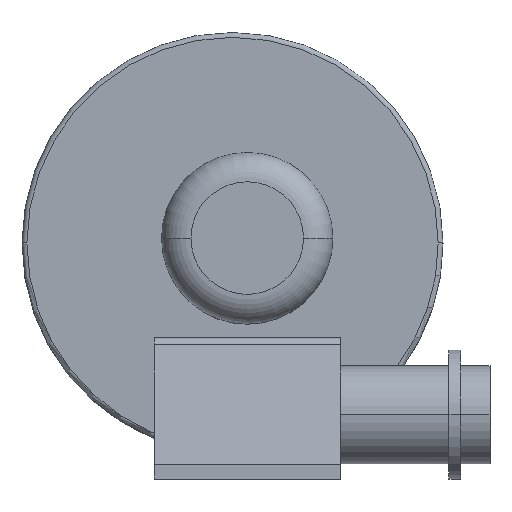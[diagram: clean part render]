
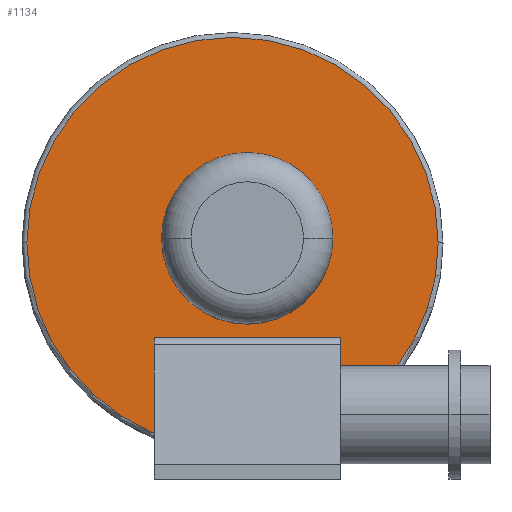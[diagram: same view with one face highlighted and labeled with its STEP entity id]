
A CAD part, top view. The second image highlights one B-rep face of the part: STEP entity #1134.
In plain terms, the highlighted planar face has unit normal (0, 0, 1).
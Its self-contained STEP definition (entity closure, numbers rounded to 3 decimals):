
#1 = ORIENTED_EDGE ( 'NONE', *, *, #2058, .T. ) ;
#6 = FACE_OUTER_BOUND ( 'NONE', #1671, .T. ) ;
#34 = VECTOR ( 'NONE', #2368, 1000. ) ;
#105 = ORIENTED_EDGE ( 'NONE', *, *, #720, .F. ) ;
#113 = CARTESIAN_POINT ( 'NONE',  ( -87.5, 0., 0. ) ) ;
#117 = CARTESIAN_POINT ( 'NONE',  ( 151.943, -132., 0. ) ) ;
#132 = CIRCLE ( 'NONE', #1577, 210.048 ) ;
#145 = LINE ( 'NONE', #274, #1044 ) ;
#192 = EDGE_CURVE ( 'NONE', #808, #1127, #1552, .T. ) ;
#270 = EDGE_CURVE ( 'NONE', #1726, #575, #480, .T. ) ;
#274 = CARTESIAN_POINT ( 'NONE',  ( 206., -130., 0. ) ) ;
#379 = CARTESIAN_POINT ( 'NONE',  ( -15., -4.524, 0. ) ) ;
#387 = ORIENTED_EDGE ( 'NONE', *, *, #972, .F. ) ;
#418 = CIRCLE ( 'NONE', #892, 210.048 ) ;
#467 = CARTESIAN_POINT ( 'NONE',  ( 0., -4.524, 0. ) ) ;
#468 = CARTESIAN_POINT ( 'NONE',  ( 0., 0., 0. ) ) ;
#480 = CIRCLE ( 'NONE', #2145, 210.048 ) ;
#525 = AXIS2_PLACEMENT_3D ( 'NONE', #468, #1779, #654 ) ;
#548 = LINE ( 'NONE', #1073, #34 ) ;
#575 = VERTEX_POINT ( 'NONE', #1868 ) ;
#577 = DIRECTION ( 'NONE',  ( -1., 0., 0. ) ) ;
#629 = CARTESIAN_POINT ( 'NONE',  ( -15., -4.524, 0. ) ) ;
#633 = DIRECTION ( 'NONE',  ( 0., 0., 1. ) ) ;
#654 = DIRECTION ( 'NONE',  ( -1., 0., 0. ) ) ;
#678 = VERTEX_POINT ( 'NONE', #2274 ) ;
#720 = EDGE_CURVE ( 'NONE', #2098, #942, #145, .T. ) ;
#744 = CARTESIAN_POINT ( 'NONE',  ( 195.048, -4.524, 0. ) ) ;
#758 = ORIENTED_EDGE ( 'NONE', *, *, #192, .T. ) ;
#802 = PLANE ( 'NONE',  #956 ) ;
#806 = VERTEX_POINT ( 'NONE', #117 ) ;
#808 = VERTEX_POINT ( 'NONE', #113 ) ;
#814 = CARTESIAN_POINT ( 'NONE',  ( 0., 0., 0. ) ) ;
#827 = DIRECTION ( 'NONE',  ( -1., 0., 0. ) ) ;
#846 = CIRCLE ( 'NONE', #525, 87.5 ) ;
#892 = AXIS2_PLACEMENT_3D ( 'NONE', #629, #1936, #827 ) ;
#895 = ORIENTED_EDGE ( 'NONE', *, *, #2130, .T. ) ;
#901 = EDGE_CURVE ( 'NONE', #2098, #1726, #418, .T. ) ;
#942 = VERTEX_POINT ( 'NONE', #1029 ) ;
#956 = AXIS2_PLACEMENT_3D ( 'NONE', #1563, #2289, #1192 ) ;
#972 = EDGE_CURVE ( 'NONE', #942, #678, #1332, .T. ) ;
#1006 = DIRECTION ( 'NONE',  ( -1., 0., 0. ) ) ;
#1024 = ORIENTED_EDGE ( 'NONE', *, *, #901, .T. ) ;
#1029 = CARTESIAN_POINT ( 'NONE',  ( 0., -130., 0. ) ) ;
#1044 = VECTOR ( 'NONE', #1250, 1000. ) ;
#1073 = CARTESIAN_POINT ( 'NONE',  ( 206., -132., 0. ) ) ;
#1127 = VERTEX_POINT ( 'NONE', #1734 ) ;
#1134 = ADVANCED_FACE ( 'NONE', ( #1487, #6 ), #802, .F. ) ;
#1192 = DIRECTION ( 'NONE',  ( -1., 0., 0. ) ) ;
#1250 = DIRECTION ( 'NONE',  ( -1., 0., 0. ) ) ;
#1332 = LINE ( 'NONE', #467, #1698 ) ;
#1487 = FACE_BOUND ( 'NONE', #1686, .T. ) ;
#1552 = CIRCLE ( 'NONE', #1667, 87.5 ) ;
#1563 = CARTESIAN_POINT ( 'NONE',  ( -15., -4.524, 0. ) ) ;
#1577 = AXIS2_PLACEMENT_3D ( 'NONE', #379, #1710, #577 ) ;
#1667 = AXIS2_PLACEMENT_3D ( 'NONE', #814, #2107, #1006 ) ;
#1671 = EDGE_LOOP ( 'NONE', ( #105, #1024, #1979, #1869, #895, #387 ) ) ;
#1686 = EDGE_LOOP ( 'NONE', ( #758, #1 ) ) ;
#1698 = VECTOR ( 'NONE', #1777, 1000. ) ;
#1710 = DIRECTION ( 'NONE',  ( 0., 0., 1. ) ) ;
#1726 = VERTEX_POINT ( 'NONE', #744 ) ;
#1734 = CARTESIAN_POINT ( 'NONE',  ( 87.5, 0., 0. ) ) ;
#1757 = CARTESIAN_POINT ( 'NONE',  ( -15., -4.524, 0. ) ) ;
#1777 = DIRECTION ( 'NONE',  ( 0., -1., 0. ) ) ;
#1779 = DIRECTION ( 'NONE',  ( 0., 0., -1. ) ) ;
#1868 = CARTESIAN_POINT ( 'NONE',  ( -225.048, -4.524, 0. ) ) ;
#1869 = ORIENTED_EDGE ( 'NONE', *, *, #1872, .T. ) ;
#1872 = EDGE_CURVE ( 'NONE', #575, #806, #132, .T. ) ;
#1936 = DIRECTION ( 'NONE',  ( 0., 0., 1. ) ) ;
#1939 = DIRECTION ( 'NONE',  ( -1., 0., 0. ) ) ;
#1979 = ORIENTED_EDGE ( 'NONE', *, *, #270, .T. ) ;
#2058 = EDGE_CURVE ( 'NONE', #1127, #808, #846, .T. ) ;
#2098 = VERTEX_POINT ( 'NONE', #2354 ) ;
#2107 = DIRECTION ( 'NONE',  ( 0., 0., -1. ) ) ;
#2130 = EDGE_CURVE ( 'NONE', #806, #678, #548, .T. ) ;
#2145 = AXIS2_PLACEMENT_3D ( 'NONE', #1757, #633, #1939 ) ;
#2274 = CARTESIAN_POINT ( 'NONE',  ( 0., -132., 0. ) ) ;
#2289 = DIRECTION ( 'NONE',  ( 0., 0., -1. ) ) ;
#2354 = CARTESIAN_POINT ( 'NONE',  ( 153.451, -130., 0. ) ) ;
#2368 = DIRECTION ( 'NONE',  ( -1., 0., 0. ) ) ;
